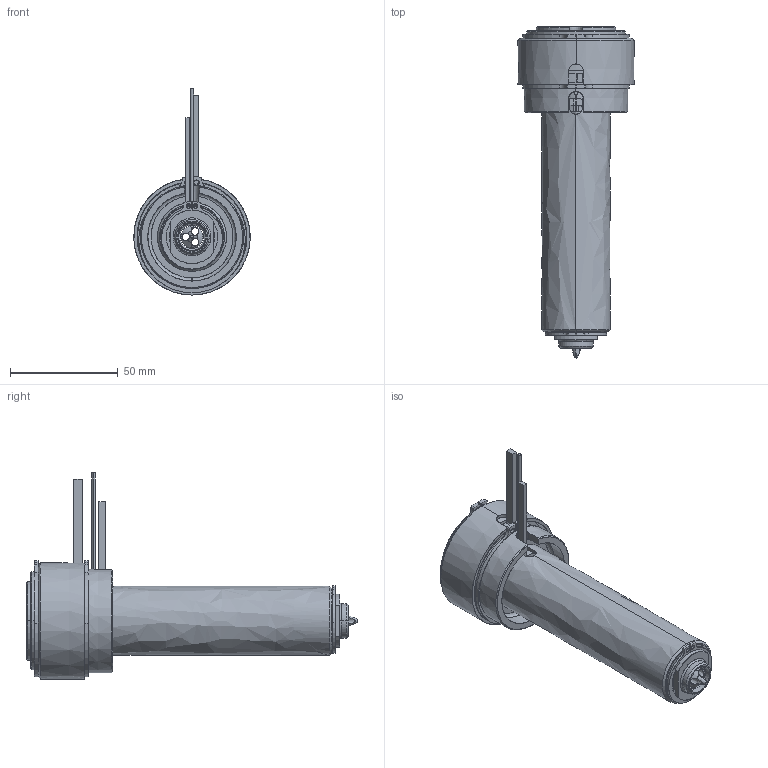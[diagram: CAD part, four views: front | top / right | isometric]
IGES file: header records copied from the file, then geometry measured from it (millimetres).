
Start section: SolidWorks IGES file using analytic representation for surfaces
Global section: file name: C:\Documents and Settings\ws-20\Desktop\TEM\UGEP5503-M-A-1 [Øf-1.36 ØC-13].IGS; native system: SolidWorks 2012; preprocessor: SolidWorks 2012; author: ws-20; date: 120427.081703; units: millimetre
Bounding box: 54 x 154.05 x 95.62 mm (x, y, z)
Surface area: 67568.8 mm2 (no closed solid volume)
Topology: 0 solids, 0 shells, 183 faces, 3616 edges, 3616 vertices
Faces by surface type: revolution 118, bspline 65
